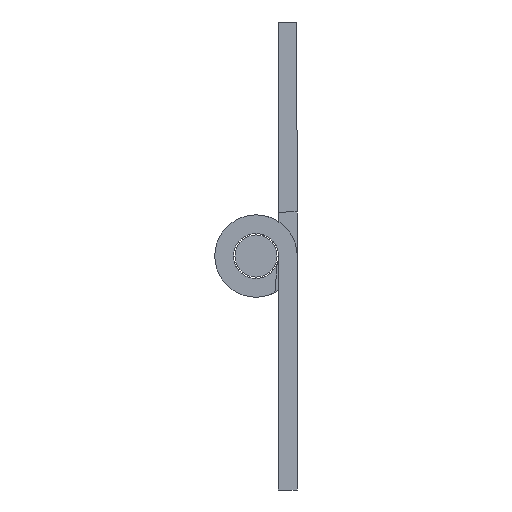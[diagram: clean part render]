
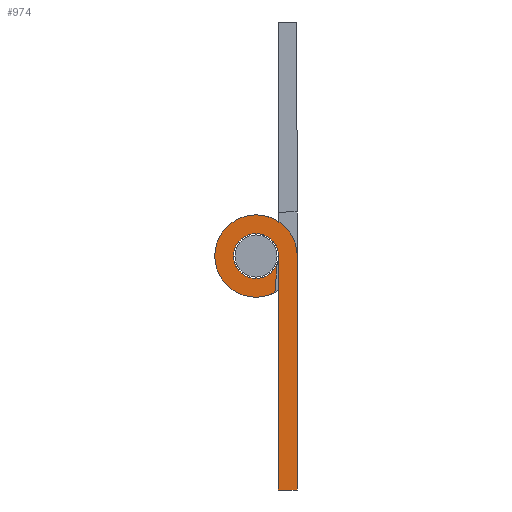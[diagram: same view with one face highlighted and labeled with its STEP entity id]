
A CAD part, left-side view. The second image highlights one B-rep face of the part: STEP entity #974.
In plain terms, the highlighted planar face has unit normal (-1, 0, 0).
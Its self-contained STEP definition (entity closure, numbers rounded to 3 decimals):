
#177 = DIRECTION ( 'NONE',  ( 1., 0., 0. ) ) ;
#213 = VERTEX_POINT ( 'NONE', #746 ) ;
#226 = ORIENTED_EDGE ( 'NONE', *, *, #2848, .F. ) ;
#300 = DIRECTION ( 'NONE',  ( 0., 0., -1. ) ) ;
#360 = DIRECTION ( 'NONE',  ( 0., 0., -1. ) ) ;
#461 = CARTESIAN_POINT ( 'NONE',  ( -32.5, 2.38, -3.909 ) ) ;
#470 = ORIENTED_EDGE ( 'NONE', *, *, #1609, .F. ) ;
#479 = DIRECTION ( 'NONE',  ( 0., 0.077, -0.997 ) ) ;
#670 = CARTESIAN_POINT ( 'NONE',  ( -32.5, 2., 0. ) ) ;
#716 = AXIS2_PLACEMENT_3D ( 'NONE', #1800, #1742, #2717 ) ;
#746 = CARTESIAN_POINT ( 'NONE',  ( -32.5, 0., -25. ) ) ;
#777 = DIRECTION ( 'NONE',  ( 0., 0.001, 1. ) ) ;
#793 = VECTOR ( 'NONE', #1107, 1000. ) ;
#841 = AXIS2_PLACEMENT_3D ( 'NONE', #2516, #1805, #1144 ) ;
#861 = ORIENTED_EDGE ( 'NONE', *, *, #2639, .F. ) ;
#902 = EDGE_CURVE ( 'NONE', #1334, #1529, #1128, .T. ) ;
#905 = CARTESIAN_POINT ( 'NONE',  ( -32.5, 2.141, -0.812 ) ) ;
#952 = CIRCLE ( 'NONE', #716, 4.4 ) ;
#969 = CARTESIAN_POINT ( 'NONE',  ( -32.5, 2., -25. ) ) ;
#974 = ADVANCED_FACE ( 'NONE', ( #1878 ), #2606, .F. ) ;
#994 = ORIENTED_EDGE ( 'NONE', *, *, #2046, .F. ) ;
#1091 = CARTESIAN_POINT ( 'NONE',  ( -32.5, 2.38, -3.909 ) ) ;
#1092 = VECTOR ( 'NONE', #479, 1000. ) ;
#1107 = DIRECTION ( 'NONE',  ( 0., 1., 0. ) ) ;
#1128 = CIRCLE ( 'NONE', #2778, 4.4 ) ;
#1141 = DIRECTION ( 'NONE',  ( 0., -0.879, -0.477 ) ) ;
#1144 = DIRECTION ( 'NONE',  ( 0., 0., -1. ) ) ;
#1162 = CARTESIAN_POINT ( 'NONE',  ( -32.5, 0., 0. ) ) ;
#1204 = AXIS2_PLACEMENT_3D ( 'NONE', #2209, #2499, #360 ) ;
#1225 = CARTESIAN_POINT ( 'NONE',  ( -32.5, 4.4, 0. ) ) ;
#1268 = VERTEX_POINT ( 'NONE', #2047 ) ;
#1303 = DIRECTION ( 'NONE',  ( 0., 0., -1. ) ) ;
#1322 = CIRCLE ( 'NONE', #3011, 4.4 ) ;
#1334 = VERTEX_POINT ( 'NONE', #1091 ) ;
#1352 = LINE ( 'NONE', #2275, #793 ) ;
#1368 = CARTESIAN_POINT ( 'NONE',  ( -32.5, 4.4, 2.4 ) ) ;
#1377 = VERTEX_POINT ( 'NONE', #1832 ) ;
#1392 = EDGE_CURVE ( 'NONE', #1410, #2299, #1728, .T. ) ;
#1403 = CARTESIAN_POINT ( 'NONE',  ( -32.5, 4.4, 0. ) ) ;
#1410 = VERTEX_POINT ( 'NONE', #1368 ) ;
#1411 = VECTOR ( 'NONE', #777, 1000. ) ;
#1416 = DIRECTION ( 'NONE',  ( 0., 0., -1. ) ) ;
#1427 = EDGE_CURVE ( 'NONE', #213, #1268, #1352, .T. ) ;
#1429 = ORIENTED_EDGE ( 'NONE', *, *, #2064, .F. ) ;
#1483 = ORIENTED_EDGE ( 'NONE', *, *, #2308, .F. ) ;
#1529 = VERTEX_POINT ( 'NONE', #2862 ) ;
#1579 = AXIS2_PLACEMENT_3D ( 'NONE', #1225, #2836, #300 ) ;
#1608 = ORIENTED_EDGE ( 'NONE', *, *, #2399, .F. ) ;
#1609 = EDGE_CURVE ( 'NONE', #2095, #213, #2700, .T. ) ;
#1611 = ORIENTED_EDGE ( 'NONE', *, *, #1427, .F. ) ;
#1646 = CARTESIAN_POINT ( 'NONE',  ( -32.5, 2., 0. ) ) ;
#1728 = CIRCLE ( 'NONE', #841, 2.4 ) ;
#1742 = DIRECTION ( 'NONE',  ( 1., 0., 0. ) ) ;
#1800 = CARTESIAN_POINT ( 'NONE',  ( -32.5, 4.4, 0. ) ) ;
#1805 = DIRECTION ( 'NONE',  ( -1., 0., 0. ) ) ;
#1832 = CARTESIAN_POINT ( 'NONE',  ( -32.5, 4.4, 4.4 ) ) ;
#1853 = ORIENTED_EDGE ( 'NONE', *, *, #902, .F. ) ;
#1878 = FACE_OUTER_BOUND ( 'NONE', #2965, .T. ) ;
#1886 = CIRCLE ( 'NONE', #1204, 2.4 ) ;
#1933 = CIRCLE ( 'NONE', #2996, 2.4 ) ;
#1981 = VECTOR ( 'NONE', #1141, 1000. ) ;
#2016 = CARTESIAN_POINT ( 'NONE',  ( -32.5, 4.4, -2.4 ) ) ;
#2046 = EDGE_CURVE ( 'NONE', #3010, #1334, #2093, .T. ) ;
#2047 = CARTESIAN_POINT ( 'NONE',  ( -32.5, 2., -25. ) ) ;
#2064 = EDGE_CURVE ( 'NONE', #2299, #3010, #1933, .T. ) ;
#2093 = LINE ( 'NONE', #461, #1092 ) ;
#2094 = DIRECTION ( 'NONE',  ( 1., 0., 0. ) ) ;
#2095 = VERTEX_POINT ( 'NONE', #1162 ) ;
#2209 = CARTESIAN_POINT ( 'NONE',  ( -32.5, 4.4, 0. ) ) ;
#2275 = CARTESIAN_POINT ( 'NONE',  ( -32.5, 0., -25. ) ) ;
#2277 = DIRECTION ( 'NONE',  ( 0., 0., -1. ) ) ;
#2292 = CARTESIAN_POINT ( 'NONE',  ( -32.5, 4.4, 0. ) ) ;
#2299 = VERTEX_POINT ( 'NONE', #2016 ) ;
#2308 = EDGE_CURVE ( 'NONE', #2502, #1410, #1886, .T. ) ;
#2318 = DIRECTION ( 'NONE',  ( -1., 0., 0. ) ) ;
#2399 = EDGE_CURVE ( 'NONE', #1377, #2095, #1322, .T. ) ;
#2448 = DIRECTION ( 'NONE',  ( 0., 0., -1. ) ) ;
#2499 = DIRECTION ( 'NONE',  ( -1., 0., 0. ) ) ;
#2502 = VERTEX_POINT ( 'NONE', #670 ) ;
#2510 = LINE ( 'NONE', #1646, #1981 ) ;
#2516 = CARTESIAN_POINT ( 'NONE',  ( -32.5, 4.4, 0. ) ) ;
#2589 = CARTESIAN_POINT ( 'NONE',  ( -32.5, 2.018, 0.01 ) ) ;
#2591 = VECTOR ( 'NONE', #2448, 1000. ) ;
#2606 = PLANE ( 'NONE',  #1579 ) ;
#2618 = LINE ( 'NONE', #969, #1411 ) ;
#2627 = VERTEX_POINT ( 'NONE', #2589 ) ;
#2639 = EDGE_CURVE ( 'NONE', #1268, #2627, #2618, .T. ) ;
#2674 = ORIENTED_EDGE ( 'NONE', *, *, #1392, .F. ) ;
#2700 = LINE ( 'NONE', #2946, #2591 ) ;
#2704 = CARTESIAN_POINT ( 'NONE',  ( -32.5, 4.4, 0. ) ) ;
#2717 = DIRECTION ( 'NONE',  ( 0., 0., -1. ) ) ;
#2778 = AXIS2_PLACEMENT_3D ( 'NONE', #2292, #2094, #2277 ) ;
#2836 = DIRECTION ( 'NONE',  ( 1., 0., 0. ) ) ;
#2848 = EDGE_CURVE ( 'NONE', #1529, #1377, #952, .T. ) ;
#2862 = CARTESIAN_POINT ( 'NONE',  ( -32.5, 4.4, -4.4 ) ) ;
#2919 = ORIENTED_EDGE ( 'NONE', *, *, #2959, .F. ) ;
#2946 = CARTESIAN_POINT ( 'NONE',  ( -32.5, 0., 0. ) ) ;
#2959 = EDGE_CURVE ( 'NONE', #2627, #2502, #2510, .T. ) ;
#2965 = EDGE_LOOP ( 'NONE', ( #1853, #994, #1429, #2674, #1483, #2919, #861, #1611, #470, #1608, #226 ) ) ;
#2996 = AXIS2_PLACEMENT_3D ( 'NONE', #1403, #2318, #1416 ) ;
#3010 = VERTEX_POINT ( 'NONE', #905 ) ;
#3011 = AXIS2_PLACEMENT_3D ( 'NONE', #2704, #177, #1303 ) ;
